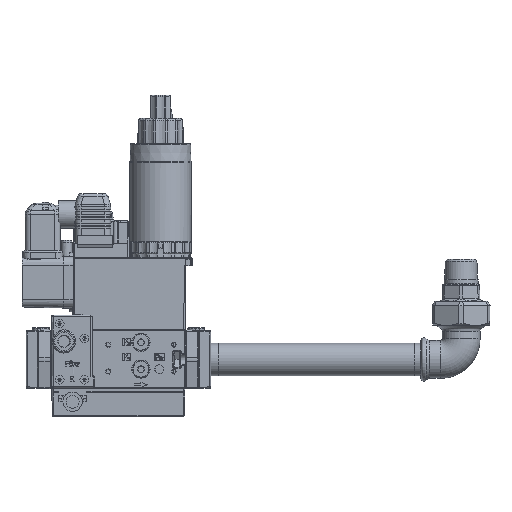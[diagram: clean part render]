
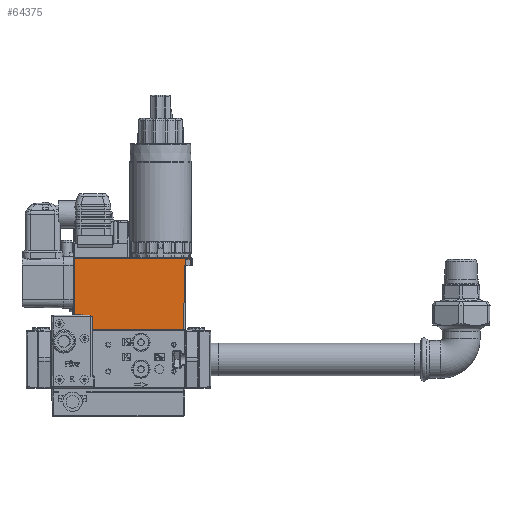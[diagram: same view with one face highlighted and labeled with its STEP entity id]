
A CAD part, top view. The second image highlights one B-rep face of the part: STEP entity #64375.
In plain terms, the highlighted planar face has unit normal (0, -0.006, 1).
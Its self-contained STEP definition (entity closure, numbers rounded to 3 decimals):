
#626 = CARTESIAN_POINT ( 'NONE',  ( -27.354, -48.201, 36.222 ) ) ;
#3494 = ORIENTED_EDGE ( 'NONE', *, *, #163979, .T. ) ;
#4027 = EDGE_CURVE ( 'NONE', #21052, #166527, #8435, .T. ) ;
#5126 = VERTEX_POINT ( 'NONE', #97190 ) ;
#5523 = ORIENTED_EDGE ( 'NONE', *, *, #157983, .T. ) ;
#8435 = LINE ( 'NONE', #102758, #161505 ) ;
#10103 = VECTOR ( 'NONE', #16567, 1000. ) ;
#12985 = LINE ( 'NONE', #95399, #92384 ) ;
#14849 = ORIENTED_EDGE ( 'NONE', *, *, #121724, .T. ) ;
#16567 = DIRECTION ( 'NONE',  ( 1., 0., 0. ) ) ;
#17080 = CARTESIAN_POINT ( 'NONE',  ( 61.872, -2.004, 36.491 ) ) ;
#18966 = ORIENTED_EDGE ( 'NONE', *, *, #104606, .T. ) ;
#19480 = LINE ( 'NONE', #128454, #122046 ) ;
#21052 = VERTEX_POINT ( 'NONE', #56438 ) ;
#21557 = VERTEX_POINT ( 'NONE', #90942 ) ;
#23064 = EDGE_CURVE ( 'NONE', #21557, #5126, #80324, .T. ) ;
#24360 = DIRECTION ( 'NONE',  ( 1., 0., 0. ) ) ;
#25550 = VECTOR ( 'NONE', #87265, 1000. ) ;
#27346 = EDGE_CURVE ( 'NONE', #151582, #166527, #38527, .T. ) ;
#27812 = VERTEX_POINT ( 'NONE', #65350 ) ;
#30024 = VERTEX_POINT ( 'NONE', #626 ) ;
#31231 = CARTESIAN_POINT ( 'NONE',  ( 61.337, -8.001, 36.456 ) ) ;
#31757 = VERTEX_POINT ( 'NONE', #131412 ) ;
#32606 = PLANE ( 'NONE',  #56482 ) ;
#33515 = DIRECTION ( 'NONE',  ( 0., -1., -0.006 ) ) ;
#33761 = ORIENTED_EDGE ( 'NONE', *, *, #42929, .T. ) ;
#34909 = CARTESIAN_POINT ( 'NONE',  ( 61.837, -8.001, 36.456 ) ) ;
#38018 = CARTESIAN_POINT ( 'NONE',  ( 55.946, -60.501, 36.151 ) ) ;
#38527 = LINE ( 'NONE', #34909, #67731 ) ;
#42929 = EDGE_CURVE ( 'NONE', #85723, #30024, #116434, .T. ) ;
#44074 = CARTESIAN_POINT ( 'NONE',  ( -25.554, -60.501, 36.151 ) ) ;
#45560 = EDGE_LOOP ( 'NONE', ( #18966, #79876, #133789, #116795, #33761, #60347, #102671, #14849, #89435, #99916, #70087, #61030, #3494, #121547, #5523 ) ) ;
#47878 = VERTEX_POINT ( 'NONE', #169518 ) ;
#48252 = VECTOR ( 'NONE', #148901, 1000. ) ;
#48650 = VERTEX_POINT ( 'NONE', #31231 ) ;
#49047 = EDGE_CURVE ( 'NONE', #31757, #138738, #179532, .T. ) ;
#51290 = EDGE_CURVE ( 'NONE', #27812, #47878, #98240, .T. ) ;
#53996 = CARTESIAN_POINT ( 'NONE',  ( 56.946, -55.501, 36.18 ) ) ;
#56438 = CARTESIAN_POINT ( 'NONE',  ( -33.922, -2.004, 36.491 ) ) ;
#56482 = AXIS2_PLACEMENT_3D ( 'NONE', #145223, #89364, #33515 ) ;
#57077 = CARTESIAN_POINT ( 'NONE',  ( -24.974, -60.501, 36.151 ) ) ;
#60347 = ORIENTED_EDGE ( 'NONE', *, *, #63783, .T. ) ;
#61030 = ORIENTED_EDGE ( 'NONE', *, *, #23064, .T. ) ;
#61316 = DIRECTION ( 'NONE',  ( 0.006, -1., -0.006 ) ) ;
#62973 = DIRECTION ( 'NONE',  ( 1., 0., 0. ) ) ;
#63783 = EDGE_CURVE ( 'NONE', #30024, #31757, #120872, .T. ) ;
#64375 = ADVANCED_FACE ( 'NONE', ( #158049 ), #32606, .T. ) ;
#65350 = CARTESIAN_POINT ( 'NONE',  ( 57.281, -3.001, 36.485 ) ) ;
#66328 = EDGE_CURVE ( 'NONE', #74403, #127562, #116332, .T. ) ;
#67731 = VECTOR ( 'NONE', #122732, 1000. ) ;
#67934 = DIRECTION ( 'NONE',  ( 0.006, -1., -0.006 ) ) ;
#70087 = ORIENTED_EDGE ( 'NONE', *, *, #169211, .T. ) ;
#73487 = DIRECTION ( 'NONE',  ( 0.006, 1., 0.006 ) ) ;
#74359 = DIRECTION ( 'NONE',  ( 1., 0., 0. ) ) ;
#74403 = VERTEX_POINT ( 'NONE', #44074 ) ;
#75024 = CARTESIAN_POINT ( 'NONE',  ( -33.922, -2.004, 36.491 ) ) ;
#79876 = ORIENTED_EDGE ( 'NONE', *, *, #27346, .T. ) ;
#80324 = LINE ( 'NONE', #148074, #178093 ) ;
#82426 = EDGE_CURVE ( 'NONE', #127562, #172360, #93911, .T. ) ;
#84773 = VECTOR ( 'NONE', #119507, 1000. ) ;
#85723 = VERTEX_POINT ( 'NONE', #86828 ) ;
#86828 = CARTESIAN_POINT ( 'NONE',  ( -33.654, -48.201, 36.222 ) ) ;
#87061 = CARTESIAN_POINT ( 'NONE',  ( 56.946, -60.501, 36.151 ) ) ;
#87265 = DIRECTION ( 'NONE',  ( 1., 0., 0. ) ) ;
#87888 = LINE ( 'NONE', #75024, #101508 ) ;
#89364 = DIRECTION ( 'NONE',  ( 0., -0.006, 1. ) ) ;
#89435 = ORIENTED_EDGE ( 'NONE', *, *, #66328, .T. ) ;
#90942 = CARTESIAN_POINT ( 'NONE',  ( 56.252, -8.001, 36.456 ) ) ;
#92384 = VECTOR ( 'NONE', #67934, 1000. ) ;
#93911 = LINE ( 'NONE', #149773, #105439 ) ;
#95399 = CARTESIAN_POINT ( 'NONE',  ( 61.308, -3.001, 36.485 ) ) ;
#95572 = DIRECTION ( 'NONE',  ( 1., 0., 0. ) ) ;
#97190 = CARTESIAN_POINT ( 'NONE',  ( 57.252, -8.001, 36.456 ) ) ;
#98240 = LINE ( 'NONE', #154131, #173086 ) ;
#99916 = ORIENTED_EDGE ( 'NONE', *, *, #82426, .T. ) ;
#101508 = VECTOR ( 'NONE', #61316, 1000. ) ;
#102671 = ORIENTED_EDGE ( 'NONE', *, *, #49047, .T. ) ;
#102758 = CARTESIAN_POINT ( 'NONE',  ( 34.189, -2.004, 36.491 ) ) ;
#103343 = CARTESIAN_POINT ( 'NONE',  ( -25.554, -55.501, 36.18 ) ) ;
#104606 = EDGE_CURVE ( 'NONE', #48650, #151582, #169712, .T. ) ;
#105439 = VECTOR ( 'NONE', #24360, 1000. ) ;
#108609 = LINE ( 'NONE', #136088, #48252 ) ;
#109878 = DIRECTION ( 'NONE',  ( 1., 0., 0. ) ) ;
#116332 = LINE ( 'NONE', #87061, #10103 ) ;
#116434 = LINE ( 'NONE', #145736, #117769 ) ;
#116795 = ORIENTED_EDGE ( 'NONE', *, *, #163644, .T. ) ;
#117769 = VECTOR ( 'NONE', #172292, 1000. ) ;
#119507 = DIRECTION ( 'NONE',  ( 0.006, 1., 0.006 ) ) ;
#120125 = VECTOR ( 'NONE', #109878, 1000. ) ;
#120872 = LINE ( 'NONE', #163024, #155856 ) ;
#121547 = ORIENTED_EDGE ( 'NONE', *, *, #51290, .T. ) ;
#121724 = EDGE_CURVE ( 'NONE', #138738, #74403, #108609, .T. ) ;
#122046 = VECTOR ( 'NONE', #73487, 1000. ) ;
#122732 = DIRECTION ( 'NONE',  ( 0.006, 1., 0.006 ) ) ;
#127562 = VERTEX_POINT ( 'NONE', #57077 ) ;
#128454 = CARTESIAN_POINT ( 'NONE',  ( 57.252, -8.001, 36.456 ) ) ;
#131412 = CARTESIAN_POINT ( 'NONE',  ( -27.311, -55.501, 36.18 ) ) ;
#131503 = CARTESIAN_POINT ( 'NONE',  ( 55.946, -60.501, 36.151 ) ) ;
#133789 = ORIENTED_EDGE ( 'NONE', *, *, #4027, .F. ) ;
#136088 = CARTESIAN_POINT ( 'NONE',  ( -25.554, -60.501, 36.151 ) ) ;
#138738 = VERTEX_POINT ( 'NONE', #103343 ) ;
#145223 = CARTESIAN_POINT ( 'NONE',  ( 56.946, -60.501, 36.151 ) ) ;
#145736 = CARTESIAN_POINT ( 'NONE',  ( 56.946, -48.201, 36.222 ) ) ;
#148074 = CARTESIAN_POINT ( 'NONE',  ( 56.946, -8.001, 36.456 ) ) ;
#148901 = DIRECTION ( 'NONE',  ( 0., -1., -0.006 ) ) ;
#149773 = CARTESIAN_POINT ( 'NONE',  ( 56.946, -60.501, 36.151 ) ) ;
#151582 = VERTEX_POINT ( 'NONE', #158036 ) ;
#154131 = CARTESIAN_POINT ( 'NONE',  ( 56.946, -3.001, 36.485 ) ) ;
#155856 = VECTOR ( 'NONE', #177694, 1000. ) ;
#157983 = EDGE_CURVE ( 'NONE', #47878, #48650, #12985, .T. ) ;
#158036 = CARTESIAN_POINT ( 'NONE',  ( 61.837, -8.001, 36.456 ) ) ;
#158049 = FACE_OUTER_BOUND ( 'NONE', #45560, .T. ) ;
#161505 = VECTOR ( 'NONE', #74359, 1000. ) ;
#163024 = CARTESIAN_POINT ( 'NONE',  ( -27.354, -48.201, 36.222 ) ) ;
#163466 = LINE ( 'NONE', #38018, #84773 ) ;
#163644 = EDGE_CURVE ( 'NONE', #21052, #85723, #87888, .T. ) ;
#163979 = EDGE_CURVE ( 'NONE', #5126, #27812, #19480, .T. ) ;
#166527 = VERTEX_POINT ( 'NONE', #17080 ) ;
#169211 = EDGE_CURVE ( 'NONE', #172360, #21557, #163466, .T. ) ;
#169518 = CARTESIAN_POINT ( 'NONE',  ( 61.308, -3.001, 36.485 ) ) ;
#169712 = LINE ( 'NONE', #172400, #25550 ) ;
#172292 = DIRECTION ( 'NONE',  ( 1., 0., 0. ) ) ;
#172360 = VERTEX_POINT ( 'NONE', #131503 ) ;
#172400 = CARTESIAN_POINT ( 'NONE',  ( 56.946, -8.001, 36.456 ) ) ;
#173086 = VECTOR ( 'NONE', #95572, 1000. ) ;
#177694 = DIRECTION ( 'NONE',  ( 0.006, -1., -0.006 ) ) ;
#178093 = VECTOR ( 'NONE', #62973, 1000. ) ;
#179532 = LINE ( 'NONE', #53996, #120125 ) ;
